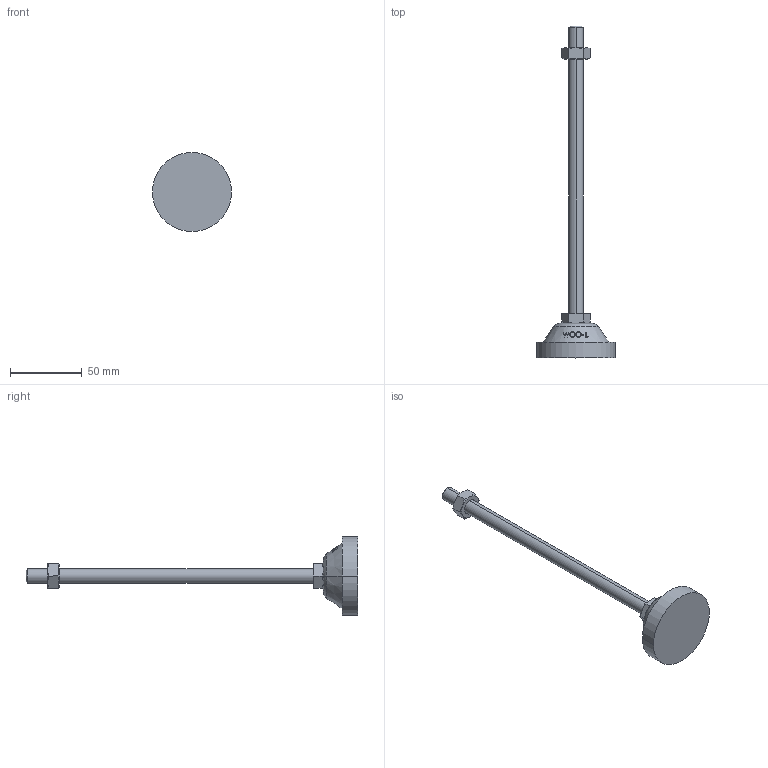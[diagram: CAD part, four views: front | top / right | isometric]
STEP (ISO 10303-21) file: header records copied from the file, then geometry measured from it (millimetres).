
FILE_DESCRIPTION (( 'STEP AP214' ), '1' );
FILE_NAME ('RL55-M10-200.step', '2021-01-06T08:16:32', ( '' ), ( '' ), 'SwSTEP 2.0', 'SolidWorks 2019', '' );
FILE_SCHEMA (( 'AUTOMOTIVE_DESIGN' ));
Length unit declared in the file: millimetre
Products named in the file (1): RL55-M10-200
Bounding box: 55 x 231 x 55 mm (x, y, z)
Volume: 59016.1 mm3; surface area: 15611.6 mm2
Topology: 3 solids, 3 shells, 93 faces, 217 edges, 140 vertices
Faces by surface type: plane 47, cone 22, bspline 16, cylinder 6, torus 2
Entity records: 4029 total; most frequent: CARTESIAN_POINT 1997, ORIENTED_EDGE 434, DIRECTION 349, EDGE_CURVE 217, VERTEX_POINT 140, AXIS2_PLACEMENT_3D 134, EDGE_LOOP 105, ADVANCED_FACE 93
